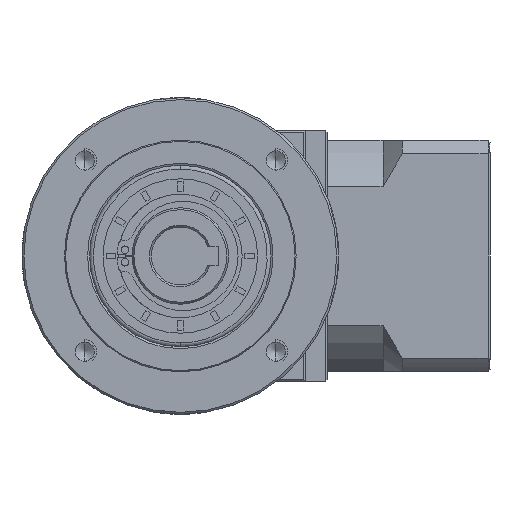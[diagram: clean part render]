
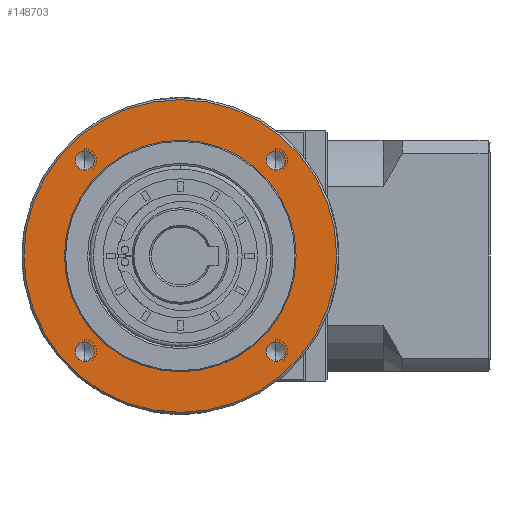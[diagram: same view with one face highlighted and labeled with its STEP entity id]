
A CAD part, left-side view. The second image highlights one B-rep face of the part: STEP entity #148703.
In plain terms, the highlighted planar face has unit normal (-1, 0, 0).
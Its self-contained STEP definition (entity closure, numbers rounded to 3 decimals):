
#1036 = VERTEX_POINT ( 'NONE', #30072 ) ;
#4096 = CIRCLE ( 'NONE', #47520, 2.5 ) ;
#4175 = CARTESIAN_POINT ( 'NONE',  ( -143.867, 1.655, -122.635 ) ) ;
#6576 = DIRECTION ( 'NONE',  ( 0., 0., -1. ) ) ;
#8363 = VERTEX_POINT ( 'NONE', #10443 ) ;
#8585 = EDGE_CURVE ( 'NONE', #130682, #113807, #22333, .T. ) ;
#10443 = CARTESIAN_POINT ( 'NONE',  ( -143.867, 26.404, -149.884 ) ) ;
#11436 = CARTESIAN_POINT ( 'NONE',  ( -143.867, -23.094, -147.384 ) ) ;
#13707 = DIRECTION ( 'NONE',  ( 0., 0., -1. ) ) ;
#14087 = CIRCLE ( 'NONE', #93513, 30. ) ;
#18282 = DIRECTION ( 'NONE',  ( 0., 0., 1. ) ) ;
#18733 = AXIS2_PLACEMENT_3D ( 'NONE', #157025, #73335, #171011 ) ;
#22333 = CIRCLE ( 'NONE', #84469, 40.5 ) ;
#22863 = CARTESIAN_POINT ( 'NONE',  ( -143.867, 1.655, -163.135 ) ) ;
#25480 = DIRECTION ( 'NONE',  ( 0., 0., -1. ) ) ;
#26142 = AXIS2_PLACEMENT_3D ( 'NONE', #137558, #53834, #151542 ) ;
#29543 = FACE_OUTER_BOUND ( 'NONE', #35237, .T. ) ;
#29606 = CARTESIAN_POINT ( 'NONE',  ( -143.867, 26.404, -147.384 ) ) ;
#30072 = CARTESIAN_POINT ( 'NONE',  ( -143.867, 26.404, -144.884 ) ) ;
#33600 = CARTESIAN_POINT ( 'NONE',  ( -143.867, 26.404, -100.386 ) ) ;
#35237 = EDGE_LOOP ( 'NONE', ( #138571, #88629 ) ) ;
#37233 = AXIS2_PLACEMENT_3D ( 'NONE', #45244, #142859, #59239 ) ;
#38260 = EDGE_CURVE ( 'NONE', #168221, #62150, #118859, .T. ) ;
#40142 = CARTESIAN_POINT ( 'NONE',  ( -143.867, -23.094, -147.384 ) ) ;
#40309 = CARTESIAN_POINT ( 'NONE',  ( -143.867, 26.404, -147.384 ) ) ;
#41903 = ORIENTED_EDGE ( 'NONE', *, *, #170322, .T. ) ;
#43711 = DIRECTION ( 'NONE',  ( 0., 0., -1. ) ) ;
#45244 = CARTESIAN_POINT ( 'NONE',  ( -143.867, 1.655, -122.635 ) ) ;
#45484 = CIRCLE ( 'NONE', #61698, 2.5 ) ;
#47520 = AXIS2_PLACEMENT_3D ( 'NONE', #152239, #68557, #166234 ) ;
#47707 = CIRCLE ( 'NONE', #18733, 2.5 ) ;
#48428 = EDGE_CURVE ( 'NONE', #113807, #130682, #147006, .T. ) ;
#48867 = VERTEX_POINT ( 'NONE', #75083 ) ;
#50223 = AXIS2_PLACEMENT_3D ( 'NONE', #40142, #137856, #54115 ) ;
#51131 = CIRCLE ( 'NONE', #92740, 2.5 ) ;
#53834 = DIRECTION ( 'NONE',  ( 1., 0., 0. ) ) ;
#53970 = CIRCLE ( 'NONE', #54149, 30. ) ;
#54115 = DIRECTION ( 'NONE',  ( 0., 0., -1. ) ) ;
#54149 = AXIS2_PLACEMENT_3D ( 'NONE', #164033, #82942, #180429 ) ;
#54288 = DIRECTION ( 'NONE',  ( 0., 0., -1. ) ) ;
#57156 = CARTESIAN_POINT ( 'NONE',  ( -143.867, -23.094, -100.386 ) ) ;
#59210 = ORIENTED_EDGE ( 'NONE', *, *, #98722, .T. ) ;
#59239 = DIRECTION ( 'NONE',  ( 0., 0., -1. ) ) ;
#61698 = AXIS2_PLACEMENT_3D ( 'NONE', #75690, #173254, #89716 ) ;
#62150 = VERTEX_POINT ( 'NONE', #165137 ) ;
#62325 = FACE_BOUND ( 'NONE', #78101, .T. ) ;
#65164 = CARTESIAN_POINT ( 'NONE',  ( -143.867, -23.094, -95.386 ) ) ;
#66678 = FACE_BOUND ( 'NONE', #137869, .T. ) ;
#67087 = EDGE_CURVE ( 'NONE', #109861, #113920, #14087, .T. ) ;
#68557 = DIRECTION ( 'NONE',  ( 1., 0., 0. ) ) ;
#69011 = EDGE_LOOP ( 'NONE', ( #144490, #122710 ) ) ;
#73335 = DIRECTION ( 'NONE',  ( 1., 0., 0. ) ) ;
#74086 = EDGE_CURVE ( 'NONE', #78812, #79061, #45484, .T. ) ;
#75083 = CARTESIAN_POINT ( 'NONE',  ( -143.867, -23.094, -149.884 ) ) ;
#75690 = CARTESIAN_POINT ( 'NONE',  ( -143.867, -23.094, -97.886 ) ) ;
#78101 = EDGE_LOOP ( 'NONE', ( #153033, #83864 ) ) ;
#78812 = VERTEX_POINT ( 'NONE', #65164 ) ;
#79061 = VERTEX_POINT ( 'NONE', #57156 ) ;
#82529 = AXIS2_PLACEMENT_3D ( 'NONE', #173712, #90163, #6576 ) ;
#82942 = DIRECTION ( 'NONE',  ( 1., 0., 0. ) ) ;
#83864 = ORIENTED_EDGE ( 'NONE', *, *, #104651, .T. ) ;
#84469 = AXIS2_PLACEMENT_3D ( 'NONE', #4175, #101887, #18282 ) ;
#87014 = CARTESIAN_POINT ( 'NONE',  ( -143.867, 1.655, -82.135 ) ) ;
#88629 = ORIENTED_EDGE ( 'NONE', *, *, #48428, .F. ) ;
#89716 = DIRECTION ( 'NONE',  ( 0., 0., -1. ) ) ;
#90163 = DIRECTION ( 'NONE',  ( 1., 0., 0. ) ) ;
#90749 = CIRCLE ( 'NONE', #141740, 2.5 ) ;
#92740 = AXIS2_PLACEMENT_3D ( 'NONE', #29606, #127373, #43711 ) ;
#93147 = CARTESIAN_POINT ( 'NONE',  ( -143.867, 1.655, -92.635 ) ) ;
#93513 = AXIS2_PLACEMENT_3D ( 'NONE', #180722, #97292, #13707 ) ;
#97292 = DIRECTION ( 'NONE',  ( 1., 0., 0. ) ) ;
#97470 = ORIENTED_EDGE ( 'NONE', *, *, #38260, .T. ) ;
#98722 = EDGE_CURVE ( 'NONE', #48867, #119826, #105309, .T. ) ;
#99388 = ORIENTED_EDGE ( 'NONE', *, *, #162550, .T. ) ;
#99468 = FACE_BOUND ( 'NONE', #149807, .T. ) ;
#101807 = CARTESIAN_POINT ( 'NONE',  ( -143.867, -23.094, -144.884 ) ) ;
#101887 = DIRECTION ( 'NONE',  ( 1., 0., 0. ) ) ;
#103924 = FACE_BOUND ( 'NONE', #158814, .T. ) ;
#104651 = EDGE_CURVE ( 'NONE', #79061, #78812, #47707, .T. ) ;
#105309 = CIRCLE ( 'NONE', #50223, 2.5 ) ;
#109021 = ORIENTED_EDGE ( 'NONE', *, *, #128815, .T. ) ;
#109114 = DIRECTION ( 'NONE',  ( 1., 0., 0. ) ) ;
#109861 = VERTEX_POINT ( 'NONE', #93147 ) ;
#113807 = VERTEX_POINT ( 'NONE', #22863 ) ;
#113920 = VERTEX_POINT ( 'NONE', #121753 ) ;
#118859 = CIRCLE ( 'NONE', #82529, 2.5 ) ;
#119826 = VERTEX_POINT ( 'NONE', #101807 ) ;
#121753 = CARTESIAN_POINT ( 'NONE',  ( -143.867, 1.655, -152.635 ) ) ;
#122710 = ORIENTED_EDGE ( 'NONE', *, *, #146327, .T. ) ;
#124205 = CIRCLE ( 'NONE', #134327, 2.5 ) ;
#127373 = DIRECTION ( 'NONE',  ( 1., 0., 0. ) ) ;
#128815 = EDGE_CURVE ( 'NONE', #119826, #48867, #90749, .T. ) ;
#130682 = VERTEX_POINT ( 'NONE', #87014 ) ;
#132213 = EDGE_CURVE ( 'NONE', #1036, #8363, #124205, .T. ) ;
#134327 = AXIS2_PLACEMENT_3D ( 'NONE', #40309, #138025, #54288 ) ;
#137558 = CARTESIAN_POINT ( 'NONE',  ( -143.867, 1.655, -122.635 ) ) ;
#137856 = DIRECTION ( 'NONE',  ( 1., 0., 0. ) ) ;
#137869 = EDGE_LOOP ( 'NONE', ( #99388, #148235 ) ) ;
#138025 = DIRECTION ( 'NONE',  ( 1., 0., 0. ) ) ;
#138571 = ORIENTED_EDGE ( 'NONE', *, *, #8585, .F. ) ;
#141740 = AXIS2_PLACEMENT_3D ( 'NONE', #11436, #109114, #25480 ) ;
#142859 = DIRECTION ( 'NONE',  ( -1., 0., 0. ) ) ;
#144490 = ORIENTED_EDGE ( 'NONE', *, *, #132213, .T. ) ;
#146327 = EDGE_CURVE ( 'NONE', #8363, #1036, #51131, .T. ) ;
#147006 = CIRCLE ( 'NONE', #26142, 40.5 ) ;
#148235 = ORIENTED_EDGE ( 'NONE', *, *, #67087, .T. ) ;
#148703 = ADVANCED_FACE ( 'NONE', ( #66678, #29543, #103924, #173631, #99468, #62325 ), #170310, .T. ) ;
#149807 = EDGE_LOOP ( 'NONE', ( #41903, #97470 ) ) ;
#151542 = DIRECTION ( 'NONE',  ( 0., 0., 1. ) ) ;
#152239 = CARTESIAN_POINT ( 'NONE',  ( -143.867, 26.404, -97.886 ) ) ;
#153033 = ORIENTED_EDGE ( 'NONE', *, *, #74086, .T. ) ;
#157025 = CARTESIAN_POINT ( 'NONE',  ( -143.867, -23.094, -97.886 ) ) ;
#158814 = EDGE_LOOP ( 'NONE', ( #109021, #59210 ) ) ;
#162550 = EDGE_CURVE ( 'NONE', #113920, #109861, #53970, .T. ) ;
#164033 = CARTESIAN_POINT ( 'NONE',  ( -143.867, 1.655, -122.635 ) ) ;
#165137 = CARTESIAN_POINT ( 'NONE',  ( -143.867, 26.404, -95.386 ) ) ;
#166234 = DIRECTION ( 'NONE',  ( 0., 0., -1. ) ) ;
#168221 = VERTEX_POINT ( 'NONE', #33600 ) ;
#170310 = PLANE ( 'NONE',  #37233 ) ;
#170322 = EDGE_CURVE ( 'NONE', #62150, #168221, #4096, .T. ) ;
#171011 = DIRECTION ( 'NONE',  ( 0., 0., -1. ) ) ;
#173254 = DIRECTION ( 'NONE',  ( 1., 0., 0. ) ) ;
#173631 = FACE_BOUND ( 'NONE', #69011, .T. ) ;
#173712 = CARTESIAN_POINT ( 'NONE',  ( -143.867, 26.404, -97.886 ) ) ;
#180429 = DIRECTION ( 'NONE',  ( 0., 0., -1. ) ) ;
#180722 = CARTESIAN_POINT ( 'NONE',  ( -143.867, 1.655, -122.635 ) ) ;
